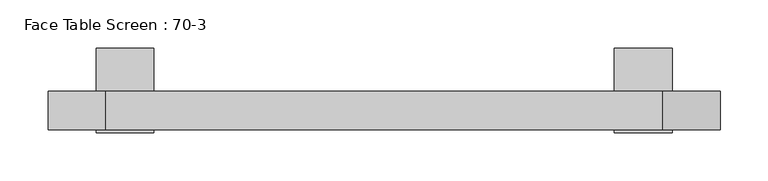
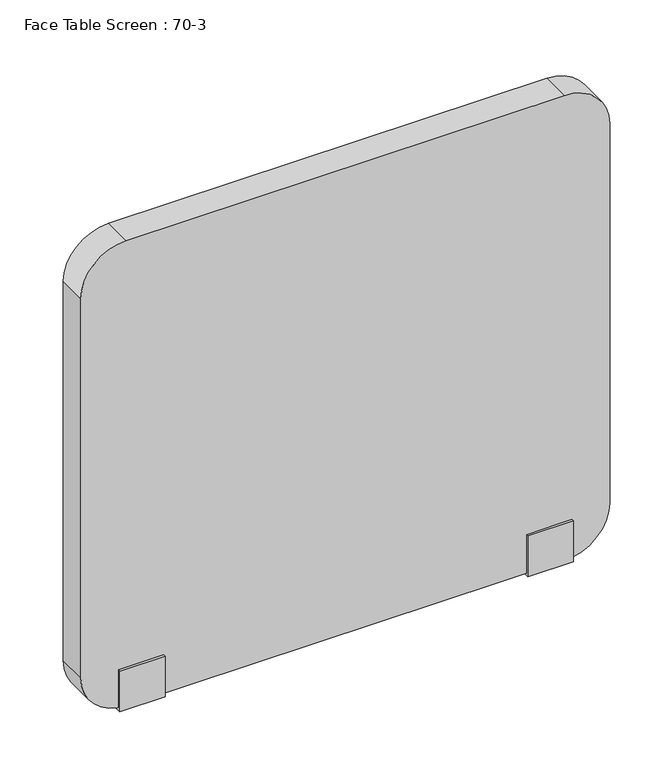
"""IFC4 building model written with IfcOpenShell, lengths in millimetres: furniture geometry, Face Table Screen : 70-3."""

from ifc_helpers import new_model, si_unit, point, frame, frame_2d, origin, place, context, project, spatial, polyline, circle_curve, trimmed, segment, composite_curve, outline, extrude, source, transform, mapped, element, save


def face_table_screen_70_3_d5a7254b(model_context):
    return source(origin(), model_context, "Body", "SweptSolid", [
        extrude(outline(polyline([(-22.9999947, -156.0), (-22.9999997, -99.0433898), (-20.0, -99.0433898), (-20.0, -153.0), (20.0, -153.0), (20.0, -22.0), (65.0, -22.0), (65.0, -25.0433898), (23.0000062, -25.0433898), (22.9999947, -156.0), (-22.9999947, -156.0)])), frame((240.0, 0.0, 0.0), z_axis=(1.0, 0.0, 0.0), x_axis=(0.0, 1.0, 0.0)), (0.0, 0.0, 1.0), 60.0),
        extrude(outline(polyline([(-22.9999947, -156.0), (-22.9999997, -99.0433898), (-20.0, -99.0433898), (-20.0, -153.0), (20.0, -153.0), (20.0, -22.0), (65.0, -22.0), (65.0, -25.0433898), (23.0000062, -25.0433898), (22.9999947, -156.0), (-22.9999947, -156.0)])), frame((-300.0, 0.0, 0.0), z_axis=(1.0, 0.0, 0.0), x_axis=(0.0, 1.0, 0.0)), (0.0, 0.0, 1.0), 60.0),
        extrude(outline(composite_curve([segment(polyline([(497.0, 290.0), (497.0, -290.0)]), True, "CONTINUOUS"), segment(trimmed(circle_curve(frame_2d((437.0, -290.0)), 60.0), [point((497.0, -290.0))], [point((437.0, -350.0))], False, "CARTESIAN"), True, "CONTINUOUS"), segment(polyline([(437.0, -350.0), (-93.0, -350.0)]), True, "CONTINUOUS"), segment(trimmed(circle_curve(frame_2d((-93.0, -290.0)), 60.0), [point((-93.0, -350.0))], [point((-153.0, -290.0))], False, "CARTESIAN"), True, "CONTINUOUS"), segment(polyline([(-153.0, -290.0), (-153.0, 290.0)]), True, "CONTINUOUS"), segment(trimmed(circle_curve(frame_2d((-93.0, 290.0)), 60.0), [point((-153.0, 290.0))], [point((-93.0, 350.0))], False, "CARTESIAN"), True, "CONTINUOUS"), segment(polyline([(-93.0, 350.0), (437.0, 350.0)]), True, "CONTINUOUS"), segment(trimmed(circle_curve(frame_2d((437.0, 290.0)), 60.0), [point((437.0, 350.0))], [point((497.0, 290.0))], False, "CARTESIAN"), True, "CONTINUOUS")], self_intersect=False)), frame((0.0, -20.0, 0.0), z_axis=(0.0, 1.0, 0.0), x_axis=(0.0, 0.0, 1.0)), (0.0, 0.0, 1.0), 40.0),
    ])


if __name__ == "__main__":
    model = new_model("IFC4")
    model_context = context("Model", 3, world=origin())
    ifc_project = project(units=[si_unit("LENGTHUNIT", "METRE", prefix="MILLI")], contexts=[model_context])
    site = spatial("IfcSite", under=ifc_project)
    building = spatial("IfcBuilding", under=site)
    placement = place(None, origin())
    face_table_screen_70_3_shape = face_table_screen_70_3_d5a7254b(model_context)
    element("IfcFurniture", 1, ObjectType="Face Table Screen : 70-3", at=placement, inside=building, context=model_context, shape_type="MappedRepresentation", body=[
        mapped(face_table_screen_70_3_shape, transform((0.0, 0.0, 0.0), x_axis=(1.0, 0.0, 0.0), y_axis=(0.0, 1.0, 0.0), z_axis=(0.0, 0.0, 1.0))),
    ])
    save(model, "model.ifc")
